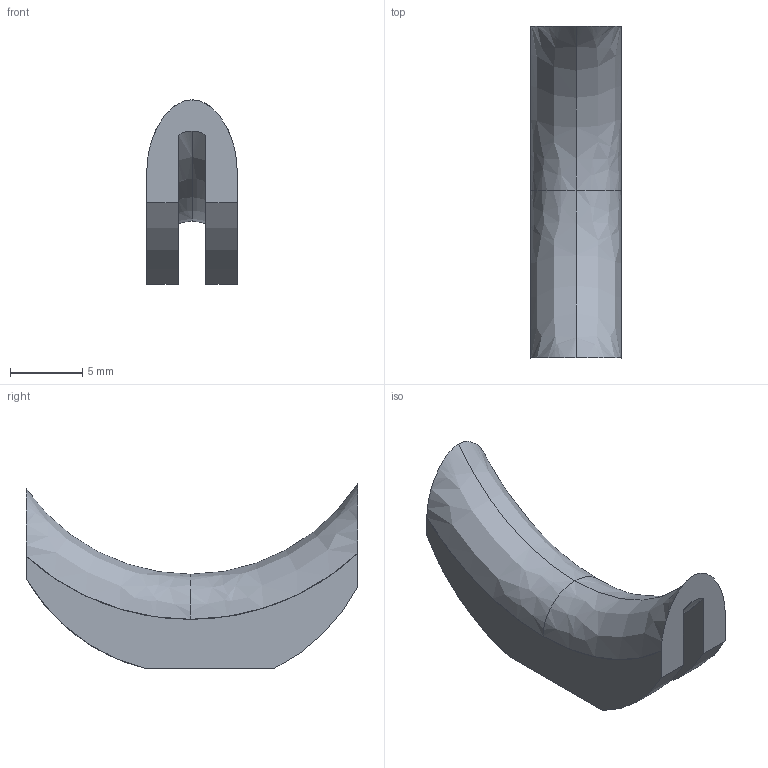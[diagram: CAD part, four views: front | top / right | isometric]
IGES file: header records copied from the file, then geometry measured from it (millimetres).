
Start section: SolidWorks IGES file using analytic representation for surfaces
Global section: file name: \\PSSILO\catalogs\CONTENTCENTRAL\Finger Piece\Cache\65F1694B-44B8-4BC4-A1A1-56EE85B4B56E.IGS; native system: SolidWorks 2009; preprocessor: SolidWorks 2009; author: partstream; date: 090731.224819; units: inch
Bounding box: 6.25 x 22.99 x 12.76 mm (x, y, z)
Surface area: 854 mm2 (no closed solid volume)
Topology: 0 solids, 0 shells, 20 faces, 266 edges, 266 vertices
Faces by surface type: bspline 16, revolution 4
